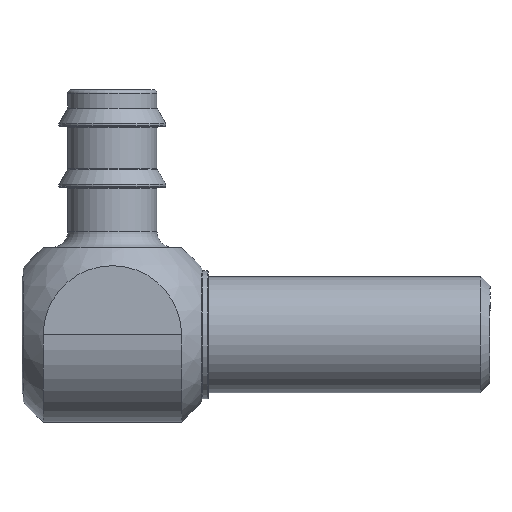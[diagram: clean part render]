
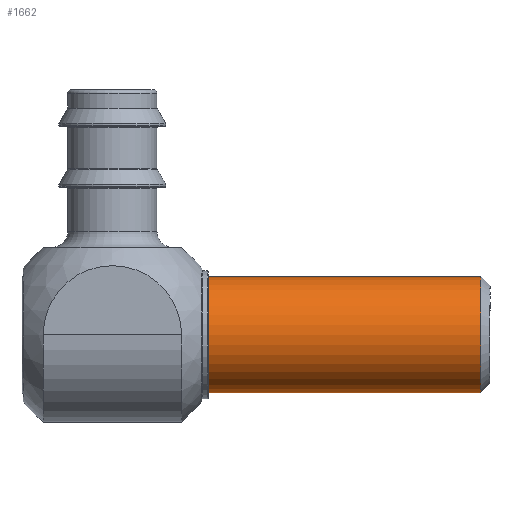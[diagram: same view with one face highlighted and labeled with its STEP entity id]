
A CAD part, left-side view. The second image highlights one B-rep face of the part: STEP entity #1662.
In plain terms, the highlighted cylindrical face has radius 8.268 mm (diameter 16.537 mm), a full revolution.
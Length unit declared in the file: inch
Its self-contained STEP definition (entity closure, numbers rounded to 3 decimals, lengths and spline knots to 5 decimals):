
#123=LINE('',#3054,#170);
#170=VECTOR('',#2452,0.335);
#208=CYLINDRICAL_SURFACE('',#1925,0.32553);
#273=FACE_OUTER_BOUND('',#378,.T.);
#378=EDGE_LOOP('',(#1394,#1395,#1396,#1397,#1398));
#559=CIRCLE('',#1923,0.32553);
#560=CIRCLE('',#1924,0.32553);
#561=CIRCLE('',#1926,0.32553);
#741=VERTEX_POINT('',#3047);
#742=VERTEX_POINT('',#3049);
#743=VERTEX_POINT('',#3053);
#971=EDGE_CURVE('',#741,#742,#559,.F.);
#972=EDGE_CURVE('',#742,#741,#560,.F.);
#973=EDGE_CURVE('',#742,#743,#123,.T.);
#974=EDGE_CURVE('',#743,#743,#561,.F.);
#1394=ORIENTED_EDGE('',*,*,#972,.F.);
#1395=ORIENTED_EDGE('',*,*,#973,.T.);
#1396=ORIENTED_EDGE('',*,*,#974,.T.);
#1397=ORIENTED_EDGE('',*,*,#973,.F.);
#1398=ORIENTED_EDGE('',*,*,#971,.F.);
#1662=ADVANCED_FACE('',(#273),#208,.T.);
#1923=AXIS2_PLACEMENT_3D('',#3050,#2446,#2447);
#1924=AXIS2_PLACEMENT_3D('',#3051,#2448,#2449);
#1925=AXIS2_PLACEMENT_3D('',#3052,#2450,#2451);
#1926=AXIS2_PLACEMENT_3D('',#3055,#2453,#2454);
#2446=DIRECTION('center_axis',(0.,1.,0.));
#2447=DIRECTION('ref_axis',(0.,0.,-1.));
#2448=DIRECTION('center_axis',(0.,1.,0.));
#2449=DIRECTION('ref_axis',(0.,0.,-1.));
#2450=DIRECTION('center_axis',(0.,-1.,0.));
#2451=DIRECTION('ref_axis',(0.,0.,-1.));
#2452=DIRECTION('',(0.,1.,0.));
#2453=DIRECTION('center_axis',(0.,1.,0.));
#2454=DIRECTION('ref_axis',(0.,0.,-1.));
#3047=CARTESIAN_POINT('',(0.,-1.52947,-0.32553));
#3049=CARTESIAN_POINT('',(0.,-1.52947,0.32553));
#3050=CARTESIAN_POINT('Origin',(0.,-1.52947,0.));
#3051=CARTESIAN_POINT('Origin',(0.,-1.52947,0.));
#3052=CARTESIAN_POINT('Origin',(0.,-0.79,0.));
#3053=CARTESIAN_POINT('',(0.,0.,0.32553));
#3054=CARTESIAN_POINT('',(0.,-0.79,0.32553));
#3055=CARTESIAN_POINT('Origin',(0.,0.,0.));
